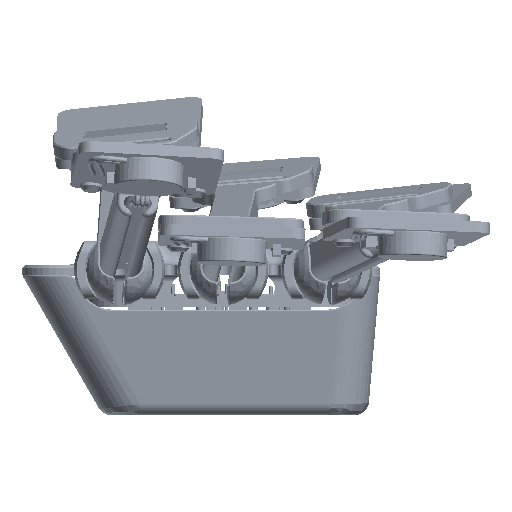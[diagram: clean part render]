
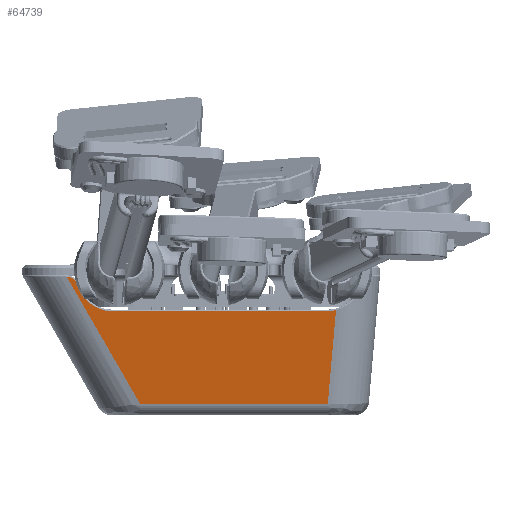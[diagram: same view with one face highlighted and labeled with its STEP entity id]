
A CAD part, front view. The second image highlights one B-rep face of the part: STEP entity #64739.
In plain terms, the highlighted planar face has unit normal (0, -0.985, -0.174) as drawn and (0, -0.174, 0.985) by its records, which use the part's own axes.
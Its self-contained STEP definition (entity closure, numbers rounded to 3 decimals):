
#4080=ELLIPSE('',#70293,5.28,5.2);
#4082=ELLIPSE('',#70298,5.28,5.2);
#4084=ELLIPSE('',#70301,1.828,1.8);
#6518=PLANE('',#70638);
#9999=FACE_OUTER_BOUND('',#13922,.T.);
#13922=EDGE_LOOP('',(#59658,#59659,#59660,#59661,#59662,#59663,#59664));
#19620=LINE('',#118599,#25524);
#19629=LINE('',#119054,#25533);
#19770=LINE('',#120826,#25674);
#19771=LINE('',#120860,#25675);
#25524=VECTOR('',#86122,10.);
#25533=VECTOR('',#86203,10.);
#25674=VECTOR('',#86906,10.);
#25675=VECTOR('',#86913,10.);
#32349=VERTEX_POINT('',#118556);
#32351=VERTEX_POINT('',#118591);
#32353=VERTEX_POINT('',#118597);
#32355=VERTEX_POINT('',#118627);
#32357=VERTEX_POINT('',#118657);
#32385=VERTEX_POINT('',#119052);
#32596=VERTEX_POINT('',#120825);
#41247=EDGE_CURVE('',#32351,#32349,#4080,.T.);
#41250=EDGE_CURVE('',#32353,#32351,#19620,.T.);
#41253=EDGE_CURVE('',#32355,#32353,#4082,.T.);
#41256=EDGE_CURVE('',#32357,#32355,#4084,.T.);
#41299=EDGE_CURVE('',#32385,#32357,#19629,.T.);
#41657=EDGE_CURVE('',#32349,#32596,#19770,.T.);
#41660=EDGE_CURVE('',#32596,#32385,#19771,.T.);
#59658=ORIENTED_EDGE('',*,*,#41256,.F.);
#59659=ORIENTED_EDGE('',*,*,#41299,.F.);
#59660=ORIENTED_EDGE('',*,*,#41660,.F.);
#59661=ORIENTED_EDGE('',*,*,#41657,.F.);
#59662=ORIENTED_EDGE('',*,*,#41247,.F.);
#59663=ORIENTED_EDGE('',*,*,#41250,.F.);
#59664=ORIENTED_EDGE('',*,*,#41253,.F.);
#64739=ADVANCED_FACE('',(#9999),#6518,.T.);
#70293=AXIS2_PLACEMENT_3D('',#118593,#86114,#86115);
#70298=AXIS2_PLACEMENT_3D('',#118629,#86126,#86127);
#70301=AXIS2_PLACEMENT_3D('',#118659,#86132,#86133);
#70638=AXIS2_PLACEMENT_3D('',#120988,#86964,#86965);
#86114=DIRECTION('center_axis',(0.,-0.174,
0.985));
#86115=DIRECTION('ref_axis',(0.,-0.985,-0.174));
#86122=DIRECTION('',(1.,0.,0.));
#86126=DIRECTION('center_axis',(0.,-0.174,
0.985));
#86127=DIRECTION('ref_axis',(0.,-0.985,-0.174));
#86132=DIRECTION('center_axis',(0.,0.174,
-0.985));
#86133=DIRECTION('ref_axis',(0.,0.985,0.174));
#86203=DIRECTION('',(-0.494,0.856,0.151));
#86906=DIRECTION('',(-0.086,-0.981,-0.173));
#86913=DIRECTION('',(-1.,0.,0.));
#86964=DIRECTION('center_axis',(0.,-0.174,
0.985));
#86965=DIRECTION('ref_axis',(1.,0.,0.));
#118556=CARTESIAN_POINT('',(16.325,-5.813,31.107));
#118591=CARTESIAN_POINT('',(15.,-5.985,31.077));
#118593=CARTESIAN_POINT('Origin',(15.,-0.785,31.994));
#118597=CARTESIAN_POINT('',(-16.,-5.985,31.077));
#118599=CARTESIAN_POINT('',(-9.6,-5.985,31.077));
#118627=CARTESIAN_POINT('',(-20.983,-2.27,31.732));
#118629=CARTESIAN_POINT('Origin',(-16.,-0.785,31.994));
#118657=CARTESIAN_POINT('',(-22.637,-0.986,31.958));
#118659=CARTESIAN_POINT('Origin',(-22.708,-2.785,31.641));
#119052=CARTESIAN_POINT('',(-12.036,-19.347,28.721));
#119054=CARTESIAN_POINT('',(-17.786,-9.388,30.477));
#120825=CARTESIAN_POINT('',(15.141,-19.347,28.721));
#120826=CARTESIAN_POINT('',(15.19,-18.791,28.819));
#120860=CARTESIAN_POINT('',(-10.304,-19.347,28.721));
#120988=CARTESIAN_POINT('Origin',(-3.2,-10.721,30.242));
